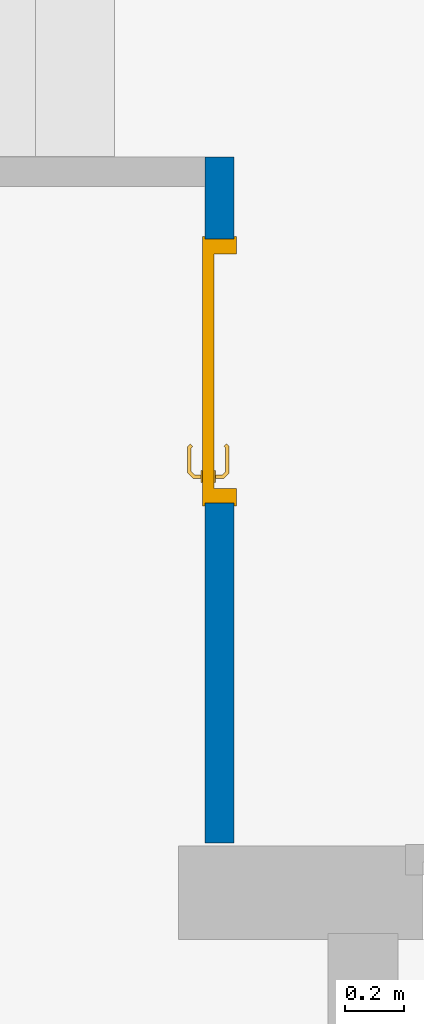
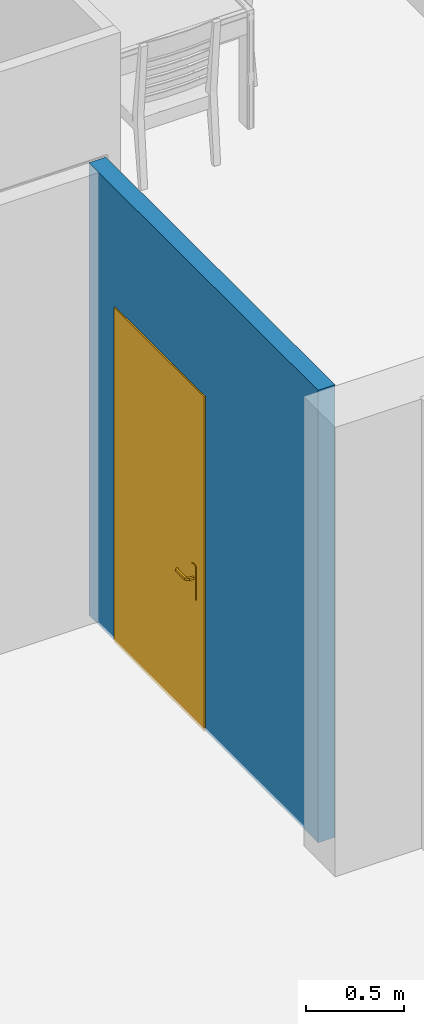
# One storey, part 20 of 33: 1 door, 1 wall, 1 opening.
"""IFC2X3 building model written with IfcOpenShell, lengths in metres."""

from ifc_helpers import new_model, entity, si_unit, converted_unit, derived_unit, direction, frame, frame_2d, origin, place, context, subcontext, project, spatial, rectangle, extrude, faceted_brep, source, transform, mapped, material, material_list, layer, layer_set, layer_usage, type_object, type_shapes, element, fill, save


model = new_model("IFC2X3")

# Units and contexts
model_context = context("Model", 3, precision=1e-05, world=origin(), true_north=direction((6.12303176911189e-17, 1.0)))
context_of_model = context(None, 3, precision=1e-05, world=origin(), true_north=direction((6.12303176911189e-17, 1.0)))
body_context = subcontext(model_context, "Body", "Model", "MODEL_VIEW")
ifc_project = project(units=[si_unit("LENGTHUNIT", "METRE"), si_unit("AREAUNIT", "SQUARE_METRE"), si_unit("VOLUMEUNIT", "CUBIC_METRE"), converted_unit("PLANEANGLEUNIT", "DEGREE", entity("IfcRatioMeasure", 0.0174532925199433), si_unit("PLANEANGLEUNIT", "RADIAN"), dimensions=[0, 0, 0, 0, 0, 0, 0]), si_unit("MASSUNIT", "GRAM", prefix="KILO"), si_unit("TIMEUNIT", "SECOND"), si_unit("FREQUENCYUNIT", "HERTZ"), si_unit("THERMODYNAMICTEMPERATUREUNIT", "DEGREE_CELSIUS"), derived_unit("THERMALTRANSMITTANCEUNIT", [(si_unit("MASSUNIT", "GRAM", prefix="KILO"), 1), (si_unit("THERMODYNAMICTEMPERATUREUNIT", "KELVIN"), -1), (si_unit("TIMEUNIT", "SECOND"), -3)]), derived_unit("VOLUMETRICFLOWRATEUNIT", [(si_unit("LENGTHUNIT", "METRE"), 3), (si_unit("TIMEUNIT", "SECOND"), -1)]), si_unit("ELECTRICCURRENTUNIT", "AMPERE"), si_unit("ELECTRICVOLTAGEUNIT", "VOLT"), si_unit("POWERUNIT", "WATT"), si_unit("FORCEUNIT", "NEWTON", prefix="KILO"), si_unit("ILLUMINANCEUNIT", "LUX"), si_unit("LUMINOUSFLUXUNIT", "LUMEN"), si_unit("LUMINOUSINTENSITYUNIT", "CANDELA"), si_unit("PRESSUREUNIT", "PASCAL")], contexts=[model_context, context_of_model])

# Site, building, storey
site_placement = place(None, origin())
site = spatial("IfcSite", under=ifc_project, at=site_placement, Name="Surface", CompositionType="ELEMENT")
building_placement = place(site_placement, origin())
building = spatial("IfcBuilding", under=site, at=building_placement, CompositionType="ELEMENT")
storey_placement = place(building_placement, origin())
storey = spatial("IfcBuildingStorey", under=building, at=storey_placement, Name="Plan des fondations  Maisons 1 et 2", CompositionType="ELEMENT", Elevation=0.0)

# Wall, opening, door
ifc_material_1 = material(Name="Peinture - Blanc")
ifc_layer = layer(ifc_material_1, 0.1)
ifc_layer_set = layer_set([ifc_layer], Name="Mur de base:Int.  Platre 100 mm en blanc 2")
ifc_layer_usage = layer_usage(ifc_layer_set, "AXIS2", "NEGATIVE", 0.05)
wall_type = type_object("IfcWallType", Name="Mur de base:Int.  Platre 100 mm en blanc 2", PredefinedType="STANDARD", material=ifc_layer_set)
wall_placement = place(building_placement, frame((86.7567857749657, 84.2575239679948, 0.0), z_axis=(0.0, 0.0, 1.0), x_axis=(0.0, 1.0, 0.0)))
wall = element("IfcWallStandardCase", 1, at=wall_placement, inside=storey, type_object=wall_type, material=ifc_layer_usage, Name="Mur de base:Int.  Platre 100 mm en blanc 2", ObjectType="Mur de base:Int.  Platre 100 mm en blanc 2", context=body_context, shape_type="SweptSolid", body=[
    extrude(rectangle(XDim=2.33999999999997, YDim=0.100000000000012, at=frame_2d((1.16999999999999, 3.77475828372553e-15), x_axis=(-1.0, 0.0))), origin(), (0.0, 0.0, 1.0), 2.82),
])
opening_placement = place(wall_placement, frame((1.15999999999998, -0.0499999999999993, 0.0)))
opening = element("IfcOpeningElement", 2, at=opening_placement, cuts=wall, Name="FR_Simple (R):83 x 204 - (80):1", ObjectType="Opening", context=body_context, shape_type="SweptSolid", body=[
    extrude(rectangle(XDim=2.075, YDim=0.9, at=frame_2d((1.0375, 0.45), x_axis=(1.0, 0.0))), frame((0.0, 0.0, 0.0), z_axis=(0.0, 1.0, 0.0), x_axis=(0.0, 0.0, 1.0)), (0.0, 0.0, 1.0), 0.1),
])
ifc_material_2 = material(Name="Poignée Porte")
ifc_material_3 = material(Name="Dormants Portes")
ifc_material_4 = material(Name="Panneaux Portes")
ifc_material_list_1 = material_list([ifc_material_2, ifc_material_3, ifc_material_4])
ifc_material_list_2 = material_list([ifc_material_2, ifc_material_3, ifc_material_4])
door_style = type_object("IfcDoorStyle", Name="83 x 204 - (80)", ConstructionType="NOTDEFINED", OperationType="SINGLE_SWING_RIGHT", ParameterTakesPrecedence=False, Sizeable=False, material=ifc_material_list_2)
shared_shape = source(origin(), body_context, "Body", "Brep", [
    faceted_brep([(0.810000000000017, -0.0130000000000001, 0.764641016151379), (0.820352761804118, -0.0130000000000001, 0.766003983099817), (0.830000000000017, -0.0130000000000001, 0.770000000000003), (0.830000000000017, -0.0130000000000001, 0.980000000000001), (0.820352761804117, -0.0130000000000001, 0.983996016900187), (0.810000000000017, -0.0130000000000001, 0.985358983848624), (0.799647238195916, -0.0130000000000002, 0.983996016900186), (0.790000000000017, -0.0130000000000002, 0.980000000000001), (0.790000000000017, -0.0130000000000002, 0.770000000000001), (0.799647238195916, -0.0130000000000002, 0.766003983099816), (0.830000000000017, -0.00800000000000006, 0.980000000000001), (0.830000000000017, -0.00800000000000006, 0.770000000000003), (0.820352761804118, -0.00800000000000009, 0.766003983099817), (0.810000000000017, -0.00800000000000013, 0.764641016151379), (0.799647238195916, -0.00800000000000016, 0.766003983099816), (0.790000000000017, -0.00800000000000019, 0.770000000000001), (0.790000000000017, -0.00800000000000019, 0.980000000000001), (0.799647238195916, -0.00800000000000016, 0.983996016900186), (0.810000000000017, -0.00800000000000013, 0.985358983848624), (0.820352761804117, -0.00800000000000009, 0.983996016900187)], [[[0, 1, 2, 3, 4, 5, 6, 7, 8, 9]], [[10, 11, 12, 13, 14, 15, 16, 17, 18, 19]], [[1, 12, 11, 2]], [[0, 13, 12, 1]], [[9, 14, 13, 0]], [[9, 8, 15, 14]], [[15, 8, 7, 16]], [[6, 17, 16, 7]], [[5, 18, 17, 6]], [[4, 19, 18, 5]], [[4, 3, 10, 19]], [[10, 3, 2, 11]]]),
    faceted_brep([(0.830000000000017, 0.0319999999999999, 0.770000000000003), (0.830000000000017, 0.0319999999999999, 0.980000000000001), (0.820352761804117, 0.0319999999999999, 0.983996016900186), (0.810000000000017, 0.0319999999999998, 0.985358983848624), (0.799647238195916, 0.0319999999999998, 0.983996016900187), (0.790000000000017, 0.0319999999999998, 0.980000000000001), (0.790000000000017, 0.0319999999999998, 0.770000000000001), (0.799647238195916, 0.0319999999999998, 0.766003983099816), (0.810000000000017, 0.0319999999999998, 0.764641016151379), (0.820352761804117, 0.0319999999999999, 0.766003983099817), (0.810000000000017, 0.0369999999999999, 0.985358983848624), (0.820352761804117, 0.0369999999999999, 0.983996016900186), (0.830000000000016, 0.0369999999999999, 0.980000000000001), (0.830000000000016, 0.0369999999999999, 0.770000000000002), (0.820352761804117, 0.0369999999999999, 0.766003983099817), (0.810000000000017, 0.0369999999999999, 0.764641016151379), (0.799647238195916, 0.0369999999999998, 0.766003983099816), (0.790000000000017, 0.0369999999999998, 0.770000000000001), (0.790000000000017, 0.0369999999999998, 0.980000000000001), (0.799647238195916, 0.0369999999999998, 0.983996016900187)], [[[0, 1, 2, 3, 4, 5, 6, 7, 8, 9]], [[10, 11, 12, 13, 14, 15, 16, 17, 18, 19]], [[4, 19, 18, 5]], [[3, 10, 19, 4]], [[2, 11, 10, 3]], [[2, 1, 12, 11]], [[12, 1, 0, 13]], [[9, 14, 13, 0]], [[8, 15, 14, 9]], [[7, 16, 15, 8]], [[7, 6, 17, 16]], [[17, 6, 5, 18]]]),
    faceted_brep([(0.807974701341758, -0.0130000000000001, 0.907780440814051), (0.812025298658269, -0.0130000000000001, 0.907780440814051), (0.816000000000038, -0.0130000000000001, 0.906999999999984), (0.816000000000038, -0.0130000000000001, 0.892999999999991), (0.812025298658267, -0.0130000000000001, 0.892219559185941), (0.807974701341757, -0.0130000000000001, 0.89221955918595), (0.80399999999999, -0.0130000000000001, 0.893000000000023), (0.803999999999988, -0.0130000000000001, 0.90699999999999), (0.812025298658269, -0.0390045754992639, 0.907780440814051), (0.816000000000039, -0.0406509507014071, 0.906999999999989), (0.807974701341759, -0.0373267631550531, 0.907780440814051), (0.794298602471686, -0.0510028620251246, 0.907780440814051), (0.795976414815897, -0.0550534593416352, 0.907780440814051), (0.709142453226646, -0.0550534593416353, 0.90778044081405), (0.710820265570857, -0.0510028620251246, 0.90778044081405), (0.704342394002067, -0.0445249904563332, 0.90778044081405), (0.701478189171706, -0.0473891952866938, 0.90778044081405), (0.803999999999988, -0.0356803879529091, 0.90699999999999), (0.80399999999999, -0.0356803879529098, 0.893000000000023), (0.807974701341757, -0.0373267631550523, 0.89221955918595), (0.812025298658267, -0.0390045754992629, 0.89221955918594), (0.795976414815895, -0.0550534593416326, 0.89221955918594), (0.794298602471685, -0.0510028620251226, 0.89221955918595), (0.710820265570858, -0.0510028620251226, 0.89221955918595), (0.709142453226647, -0.0550534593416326, 0.89221955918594), (0.701478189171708, -0.0473891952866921, 0.89221955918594), (0.704342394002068, -0.044524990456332, 0.89221955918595), (0.816000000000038, -0.0406509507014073, 0.892999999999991), (0.797622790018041, -0.059028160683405, 0.906999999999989), (0.792652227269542, -0.0470281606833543, 0.90699999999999), (0.792652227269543, -0.0470281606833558, 0.893000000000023), (0.79762279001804, -0.0590281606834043, 0.892999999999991), (0.752559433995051, -0.053182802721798, 0.907878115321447), (0.757692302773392, -0.0590281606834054, 0.906999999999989), (0.707496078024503, -0.0590281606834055, 0.906999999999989), (0.752559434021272, -0.0470281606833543, 0.90699999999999), (0.712466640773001, -0.0470281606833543, 0.906999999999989), (0.752559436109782, -0.0470281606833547, 0.893000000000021), (0.712466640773, -0.0470281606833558, 0.893000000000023), (0.752559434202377, -0.0531828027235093, 0.892121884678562), (0.747426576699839, -0.0590281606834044, 0.892999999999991), (0.707496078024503, -0.0590281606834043, 0.892999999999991), (0.707152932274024, -0.0417144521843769, 0.89300000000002), (0.69866765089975, -0.0501997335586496, 0.892999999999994), (0.698667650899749, -0.0501997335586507, 0.906999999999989), (0.707152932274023, -0.0417144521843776, 0.906999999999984)], [[[0, 1, 2, 3, 4, 5, 6, 7]], [[2, 1, 8, 9]], [[1, 0, 10, 11, 12, 8]], [[13, 14, 15, 16]], [[0, 7, 17, 10]], [[18, 17, 7, 6]], [[5, 19, 18, 6]], [[5, 4, 20, 21, 22, 19]], [[23, 24, 25, 26]], [[3, 27, 20, 4]], [[9, 27, 3, 2]], [[9, 8, 12, 28]], [[10, 17, 29, 11]], [[30, 29, 17, 18]], [[18, 19, 22, 30]], [[20, 27, 31, 21]], [[28, 31, 27, 9]], [[12, 32, 33]], [[13, 33, 32]], [[33, 28, 12]], [[33, 13, 34]], [[11, 35, 32]], [[32, 12, 11]], [[32, 35, 14]], [[35, 11, 29]], [[36, 14, 35]], [[13, 32, 14]], [[30, 37, 38, 36, 35, 29]], [[39, 37, 22]], [[40, 41, 24]], [[40, 21, 31]], [[39, 21, 40]], [[23, 37, 39]], [[39, 24, 23]], [[30, 22, 37]], [[37, 23, 38]], [[21, 39, 22]], [[24, 39, 40]], [[31, 28, 33, 34, 41, 40]], [[42, 26, 25, 43, 44, 16, 15, 45]], [[13, 16, 44, 34]], [[36, 45, 15, 14]], [[42, 45, 36, 38]], [[38, 23, 26, 42]], [[24, 41, 43, 25]], [[44, 43, 41, 34]]]),
    faceted_brep([(0.812025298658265, 0.0369999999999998, 0.907780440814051), (0.807974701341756, 0.0369999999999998, 0.907780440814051), (0.803999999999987, 0.0369999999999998, 0.90699999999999), (0.803999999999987, 0.0369999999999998, 0.89300000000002), (0.807974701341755, 0.0369999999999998, 0.892219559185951), (0.812025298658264, 0.0369999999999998, 0.892219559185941), (0.816000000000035, 0.0369999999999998, 0.892999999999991), (0.816000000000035, 0.0369999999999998, 0.90699999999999), (0.803999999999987, 0.0594852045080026, 0.90699999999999), (0.803999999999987, 0.0594852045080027, 0.89300000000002), (0.807974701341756, 0.0611315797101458, 0.907780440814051), (0.812025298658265, 0.0628093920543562, 0.907780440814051), (0.795838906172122, 0.0789957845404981, 0.907780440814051), (0.794161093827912, 0.0749451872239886, 0.907780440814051), (0.71079312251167, 0.0749451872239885, 0.907780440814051), (0.70911531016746, 0.0789957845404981, 0.907780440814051), (0.701451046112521, 0.071331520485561, 0.907780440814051), (0.70431525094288, 0.0684673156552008, 0.907780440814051), (0.816000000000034, 0.0644557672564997, 0.90699999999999), (0.816000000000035, 0.0644557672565, 0.892999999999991), (0.812025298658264, 0.0628093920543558, 0.892219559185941), (0.807974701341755, 0.0611315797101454, 0.892219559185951), (0.794161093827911, 0.0749451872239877, 0.892219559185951), (0.795838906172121, 0.0789957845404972, 0.892219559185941), (0.70911531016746, 0.0789957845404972, 0.89221955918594), (0.71079312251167, 0.0749451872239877, 0.89221955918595), (0.704315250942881, 0.0684673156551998, 0.89221955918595), (0.701451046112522, 0.07133152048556, 0.89221955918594), (0.792514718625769, 0.07097048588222, 0.89300000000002), (0.792514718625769, 0.0709704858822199, 0.90699999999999), (0.797485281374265, 0.0829704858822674, 0.90699999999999), (0.797485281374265, 0.082970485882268, 0.892999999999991), (0.752477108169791, 0.0709704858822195, 0.90699999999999), (0.712439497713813, 0.0709704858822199, 0.90699999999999), (0.712439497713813, 0.0709704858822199, 0.89300000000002), (0.752477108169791, 0.0709704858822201, 0.89300000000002), (0.752477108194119, 0.0771249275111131, 0.907878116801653), (0.747399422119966, 0.0829704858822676, 0.90699999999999), (0.707468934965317, 0.0829704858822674, 0.90699999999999), (0.757554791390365, 0.0829704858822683, 0.892999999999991), (0.707468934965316, 0.082970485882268, 0.892999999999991), (0.752477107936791, 0.0771249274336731, 0.892121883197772), (0.698640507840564, 0.0741420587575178, 0.90699999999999), (0.698640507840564, 0.074142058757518, 0.892999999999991), (0.707125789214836, 0.0656567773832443, 0.89300000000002), (0.707125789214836, 0.0656567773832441, 0.90699999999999)], [[[0, 1, 2, 3, 4, 5, 6, 7]], [[8, 9, 3, 2]], [[1, 10, 8, 2]], [[1, 0, 11, 12, 13, 10]], [[14, 15, 16, 17]], [[7, 18, 11, 0]], [[18, 7, 6, 19]], [[6, 5, 20, 19]], [[5, 4, 21, 22, 23, 20]], [[24, 25, 26, 27]], [[4, 3, 9, 21]], [[28, 9, 8, 29]], [[8, 10, 13, 29]], [[18, 30, 12, 11]], [[31, 30, 18, 19]], [[19, 20, 23, 31]], [[21, 9, 28, 22]], [[28, 29, 32, 33, 34, 35]], [[36, 32, 13]], [[37, 38, 15]], [[37, 12, 30]], [[36, 12, 37]], [[14, 32, 36]], [[36, 15, 14]], [[29, 13, 32]], [[32, 14, 33]], [[12, 36, 13]], [[15, 36, 37]], [[30, 31, 39, 40, 38, 37]], [[23, 41, 39]], [[24, 39, 41]], [[39, 31, 23]], [[39, 24, 40]], [[22, 35, 41]], [[41, 23, 22]], [[41, 35, 25]], [[35, 22, 28]], [[34, 25, 35]], [[24, 41, 25]], [[17, 16, 42, 43, 27, 26, 44, 45]], [[44, 34, 33, 45]], [[33, 14, 17, 45]], [[15, 38, 42, 16]], [[42, 38, 40, 43]], [[24, 27, 43, 40]], [[34, 44, 26, 25]]]),
    faceted_brep([(0.900000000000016, 0.0, 0.0), (0.910000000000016, 0.0, 0.0), (0.910000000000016, -0.00799999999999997, 0.0), (0.865000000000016, -0.00799999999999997, 0.0), (0.865000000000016, 0.032, 0.0), (0.850000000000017, 0.032, 0.0), (0.850000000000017, 0.108000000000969, 0.0), (0.910000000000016, 0.108000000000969, 0.0), (0.910000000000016, 0.10000000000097, 0.0), (0.900000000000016, 0.10000000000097, 0.0), (0.900000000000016, 0.10000000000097, 2.075), (0.900000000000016, 0.0, 2.075), (0.910000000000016, 0.10000000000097, 2.085), (-0.00999999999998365, 0.10000000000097, 2.085), (-0.00999999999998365, 0.10000000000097, 0.0), (0.0, 0.10000000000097, 0.0), (0.0, 0.10000000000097, 2.075), (0.910000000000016, 0.108000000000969, 2.085), (0.850000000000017, 0.108000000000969, 2.025), (0.0500000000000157, 0.108000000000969, 2.025), (0.0500000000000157, 0.108000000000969, 0.0), (-0.00999999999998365, 0.108000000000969, 0.0), (-0.00999999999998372, 0.108000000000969, 2.085), (0.850000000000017, 0.032, 2.025), (0.865000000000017, 0.032, 2.04), (0.0350000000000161, 0.032, 2.04), (0.0350000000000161, 0.032, 0.0), (0.0500000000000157, 0.032, 0.0), (0.0500000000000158, 0.032, 2.025), (0.865000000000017, -0.00799999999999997, 2.04), (0.910000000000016, -0.00799999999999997, 2.085), (-0.00999999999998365, -0.00799999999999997, 2.085), (-0.00999999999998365, -0.00799999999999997, 0.0), (0.0350000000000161, -0.00799999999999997, 0.0), (0.0350000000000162, -0.00799999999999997, 2.04), (0.910000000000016, 0.0, 2.085), (0.0, 0.0, 2.075), (0.0, 0.0, 0.0), (-0.00999999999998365, 0.0, 0.0), (-0.00999999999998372, 0.0, 2.085)], [[[0, 1, 2, 3, 4, 5, 6, 7, 8, 9]], [[9, 10, 11, 0]], [[8, 12, 13, 14, 15, 16, 10, 9]], [[7, 17, 12, 8]], [[6, 18, 19, 20, 21, 22, 17, 7]], [[5, 23, 18, 6]], [[4, 24, 25, 26, 27, 28, 23, 5]], [[3, 29, 24, 4]], [[2, 30, 31, 32, 33, 34, 29, 3]], [[1, 35, 30, 2]], [[0, 11, 36, 37, 38, 39, 35, 1]], [[10, 16, 36, 11]], [[17, 22, 13, 12]], [[23, 28, 19, 18]], [[29, 34, 25, 24]], [[35, 39, 31, 30]], [[37, 15, 14, 21, 20, 27, 26, 33, 32, 38]], [[16, 15, 37, 36]], [[22, 21, 14, 13]], [[28, 27, 20, 19]], [[34, 33, 26, 25]], [[39, 38, 32, 31]]]),
    faceted_brep([(0.865000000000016, -0.00799999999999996, 2.04), (0.0350000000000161, -0.00799999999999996, 2.04), (0.0350000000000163, -0.00799999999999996, 0.0), (0.865000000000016, -0.00799999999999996, 0.0), (0.865000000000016, 0.032, 2.04), (0.865000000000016, 0.032, 0.0), (0.0350000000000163, 0.032, 0.0), (0.0350000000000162, 0.032, 2.04)], [[[0, 1, 2, 3]], [[4, 5, 6, 7]], [[3, 5, 4, 0]], [[2, 6, 5, 3]], [[1, 7, 6, 2]], [[0, 4, 7, 1]]]),
])
type_shapes(door_style, [shared_shape])
door_placement = place(opening_placement, frame((0.899999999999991, 0.100000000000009, 0.0), z_axis=(0.0, 0.0, 1.0), x_axis=(-1.0, 0.0, 0.0)))
door = element("IfcDoor", 3, at=door_placement, inside=storey, type_object=door_style, material=ifc_material_list_1, Name="FR_Simple (R):83 x 204 - (80)", ObjectType="83 x 204 - (80)", OverallHeight=2.075, OverallWidth=0.900000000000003, context=body_context, shape_type="MappedRepresentation", body=[
    mapped(shared_shape, transform((0.0, 0.0, 0.0), scale=1.0)),
])
fill(opening, door)

save(model, "model.ifc")
